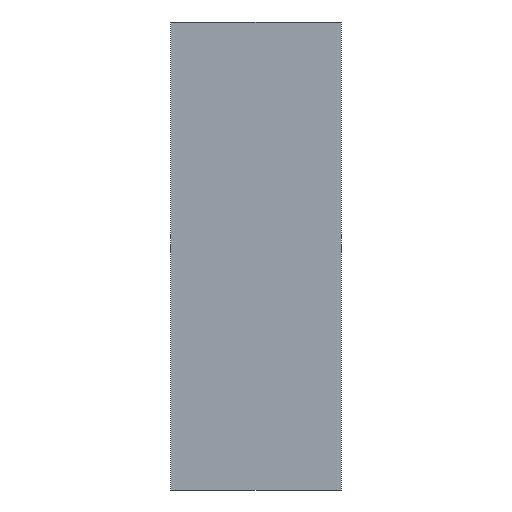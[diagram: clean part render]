
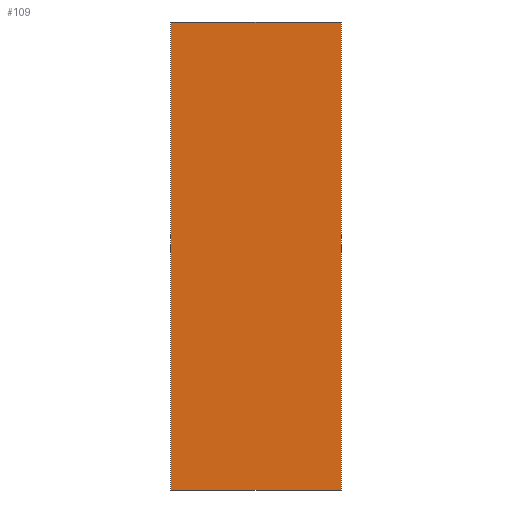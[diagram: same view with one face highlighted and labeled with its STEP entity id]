
A CAD part, front view. The second image highlights one B-rep face of the part: STEP entity #109.
In plain terms, the highlighted planar face has unit normal (0, -1, 0).
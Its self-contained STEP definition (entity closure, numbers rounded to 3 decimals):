
#16=FACE_OUTER_BOUND('',#22,.T.);
#22=EDGE_LOOP('',(#78,#79,#80,#81));
#28=LINE('',#173,#40);
#32=LINE('',#180,#44);
#33=LINE('',#183,#45);
#34=LINE('',#184,#46);
#40=VECTOR('',#145,10.);
#44=VECTOR('',#151,10.);
#45=VECTOR('',#154,10.);
#46=VECTOR('',#155,10.);
#52=VERTEX_POINT('',#170);
#53=VERTEX_POINT('',#172);
#55=VERTEX_POINT('',#178);
#56=VERTEX_POINT('',#182);
#60=EDGE_CURVE('',#52,#53,#28,.T.);
#64=EDGE_CURVE('',#55,#52,#32,.T.);
#65=EDGE_CURVE('',#56,#55,#33,.T.);
#66=EDGE_CURVE('',#56,#53,#34,.T.);
#78=ORIENTED_EDGE('',*,*,#64,.F.);
#79=ORIENTED_EDGE('',*,*,#65,.F.);
#80=ORIENTED_EDGE('',*,*,#66,.T.);
#81=ORIENTED_EDGE('',*,*,#60,.F.);
#96=PLANE('',#135);
#109=ADVANCED_FACE('',(#16),#96,.T.);
#135=AXIS2_PLACEMENT_3D('',#181,#152,#153);
#145=DIRECTION('',(-1.,0.,0.));
#151=DIRECTION('',(0.,0.,-1.));
#152=DIRECTION('center_axis',(0.,-1.,0.));
#153=DIRECTION('ref_axis',(1.,0.,0.));
#154=DIRECTION('',(1.,0.,0.));
#155=DIRECTION('',(0.,0.,-1.));
#170=CARTESIAN_POINT('',(20.,-10.1,-55.));
#172=CARTESIAN_POINT('',(-20.,-10.1,-55.));
#173=CARTESIAN_POINT('',(20.,-10.1,-55.));
#178=CARTESIAN_POINT('',(20.,-10.1,55.));
#180=CARTESIAN_POINT('',(20.,-10.1,0.));
#181=CARTESIAN_POINT('Origin',(-20.,-10.1,0.));
#182=CARTESIAN_POINT('',(-20.,-10.1,55.));
#183=CARTESIAN_POINT('',(20.,-10.1,55.));
#184=CARTESIAN_POINT('',(-20.,-10.1,0.));
